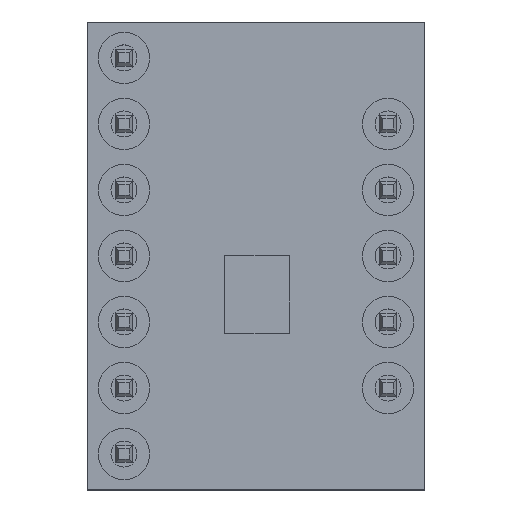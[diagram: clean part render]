
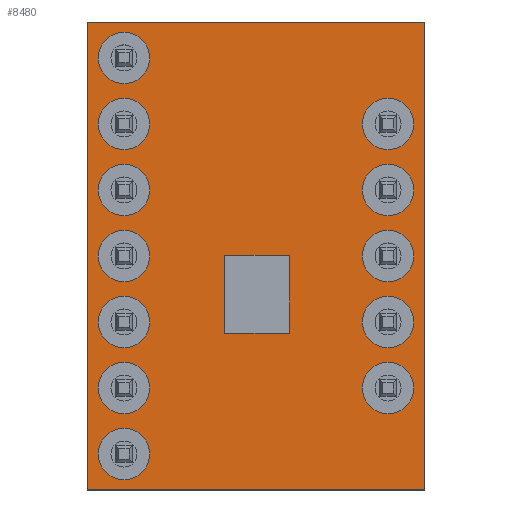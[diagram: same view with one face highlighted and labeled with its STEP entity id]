
A CAD part, top view. The second image highlights one B-rep face of the part: STEP entity #8480.
In plain terms, the highlighted planar face has unit normal (0, 0, 1).
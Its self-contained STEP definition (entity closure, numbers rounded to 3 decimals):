
#56=CIRCLE('',#9000,0.99);
#59=CIRCLE('',#9006,0.99);
#62=CIRCLE('',#9012,0.99);
#65=CIRCLE('',#9018,0.99);
#68=CIRCLE('',#9024,0.99);
#71=CIRCLE('',#9030,0.99);
#74=CIRCLE('',#9036,0.99);
#77=CIRCLE('',#9042,0.99);
#80=CIRCLE('',#9048,0.99);
#83=CIRCLE('',#9054,0.99);
#86=CIRCLE('',#9060,0.99);
#89=CIRCLE('',#9066,0.99);
#278=FACE_BOUND('',#1298,.T.);
#279=FACE_BOUND('',#1299,.T.);
#280=FACE_BOUND('',#1300,.T.);
#281=FACE_BOUND('',#1301,.T.);
#282=FACE_BOUND('',#1302,.T.);
#283=FACE_BOUND('',#1303,.T.);
#284=FACE_BOUND('',#1304,.T.);
#285=FACE_BOUND('',#1305,.T.);
#286=FACE_BOUND('',#1306,.T.);
#287=FACE_BOUND('',#1307,.T.);
#288=FACE_BOUND('',#1308,.T.);
#289=FACE_BOUND('',#1309,.T.);
#290=FACE_BOUND('',#1310,.T.);
#758=FACE_OUTER_BOUND('',#1297,.T.);
#1297=EDGE_LOOP('',(#7064,#7065,#7066,#7067));
#1298=EDGE_LOOP('',(#7068));
#1299=EDGE_LOOP('',(#7069));
#1300=EDGE_LOOP('',(#7070));
#1301=EDGE_LOOP('',(#7071));
#1302=EDGE_LOOP('',(#7072));
#1303=EDGE_LOOP('',(#7073));
#1304=EDGE_LOOP('',(#7074));
#1305=EDGE_LOOP('',(#7075));
#1306=EDGE_LOOP('',(#7076));
#1307=EDGE_LOOP('',(#7077));
#1308=EDGE_LOOP('',(#7078));
#1309=EDGE_LOOP('',(#7079));
#1310=EDGE_LOOP('',(#7080,#7081,#7082,#7083));
#2272=LINE('',#13142,#3232);
#2276=LINE('',#13150,#3236);
#2279=LINE('',#13156,#3239);
#2282=LINE('',#13161,#3242);
#2322=LINE('',#13411,#3282);
#2325=LINE('',#13417,#3285);
#2328=LINE('',#13423,#3288);
#2331=LINE('',#13427,#3291);
#3232=VECTOR('',#10782,10.);
#3236=VECTOR('',#10788,10.);
#3239=VECTOR('',#10793,10.);
#3242=VECTOR('',#10798,10.);
#3282=VECTOR('',#11106,10.);
#3285=VECTOR('',#11111,10.);
#3288=VECTOR('',#11116,10.);
#3291=VECTOR('',#11121,10.);
#3868=VERTEX_POINT('',#13140);
#3869=VERTEX_POINT('',#13141);
#3872=VERTEX_POINT('',#13149);
#3874=VERTEX_POINT('',#13155);
#3913=VERTEX_POINT('',#13275);
#3916=VERTEX_POINT('',#13286);
#3919=VERTEX_POINT('',#13297);
#3922=VERTEX_POINT('',#13308);
#3925=VERTEX_POINT('',#13319);
#3928=VERTEX_POINT('',#13330);
#3931=VERTEX_POINT('',#13341);
#3934=VERTEX_POINT('',#13352);
#3937=VERTEX_POINT('',#13363);
#3940=VERTEX_POINT('',#13374);
#3943=VERTEX_POINT('',#13385);
#3946=VERTEX_POINT('',#13396);
#3950=VERTEX_POINT('',#13408);
#3951=VERTEX_POINT('',#13410);
#3953=VERTEX_POINT('',#13416);
#3955=VERTEX_POINT('',#13422);
#4880=EDGE_CURVE('',#3868,#3869,#2272,.T.);
#4884=EDGE_CURVE('',#3869,#3872,#2276,.T.);
#4887=EDGE_CURVE('',#3872,#3874,#2279,.T.);
#4890=EDGE_CURVE('',#3874,#3868,#2282,.T.);
#4942=EDGE_CURVE('',#3913,#3913,#56,.T.);
#4947=EDGE_CURVE('',#3916,#3916,#59,.T.);
#4952=EDGE_CURVE('',#3919,#3919,#62,.T.);
#4957=EDGE_CURVE('',#3922,#3922,#65,.T.);
#4962=EDGE_CURVE('',#3925,#3925,#68,.T.);
#4967=EDGE_CURVE('',#3928,#3928,#71,.T.);
#4972=EDGE_CURVE('',#3931,#3931,#74,.T.);
#4977=EDGE_CURVE('',#3934,#3934,#77,.T.);
#4982=EDGE_CURVE('',#3937,#3937,#80,.T.);
#4987=EDGE_CURVE('',#3940,#3940,#83,.T.);
#4992=EDGE_CURVE('',#3943,#3943,#86,.T.);
#4997=EDGE_CURVE('',#3946,#3946,#89,.T.);
#5002=EDGE_CURVE('',#3951,#3950,#2322,.T.);
#5005=EDGE_CURVE('',#3953,#3951,#2325,.T.);
#5008=EDGE_CURVE('',#3955,#3953,#2328,.T.);
#5011=EDGE_CURVE('',#3950,#3955,#2331,.T.);
#7064=ORIENTED_EDGE('',*,*,#5011,.T.);
#7065=ORIENTED_EDGE('',*,*,#5008,.T.);
#7066=ORIENTED_EDGE('',*,*,#5005,.T.);
#7067=ORIENTED_EDGE('',*,*,#5002,.T.);
#7068=ORIENTED_EDGE('',*,*,#4982,.T.);
#7069=ORIENTED_EDGE('',*,*,#4997,.T.);
#7070=ORIENTED_EDGE('',*,*,#4972,.T.);
#7071=ORIENTED_EDGE('',*,*,#4992,.T.);
#7072=ORIENTED_EDGE('',*,*,#4942,.T.);
#7073=ORIENTED_EDGE('',*,*,#4957,.T.);
#7074=ORIENTED_EDGE('',*,*,#4952,.T.);
#7075=ORIENTED_EDGE('',*,*,#4977,.T.);
#7076=ORIENTED_EDGE('',*,*,#4962,.T.);
#7077=ORIENTED_EDGE('',*,*,#4947,.T.);
#7078=ORIENTED_EDGE('',*,*,#4987,.T.);
#7079=ORIENTED_EDGE('',*,*,#4967,.T.);
#7080=ORIENTED_EDGE('',*,*,#4880,.T.);
#7081=ORIENTED_EDGE('',*,*,#4884,.T.);
#7082=ORIENTED_EDGE('',*,*,#4887,.T.);
#7083=ORIENTED_EDGE('',*,*,#4890,.T.);
#7639=PLANE('',#9074);
#8480=ADVANCED_FACE('',(#758,#278,#279,#280,#281,#282,#283,#284,#285,#286,
#287,#288,#289,#290),#7639,.T.);
#9000=AXIS2_PLACEMENT_3D('',#13277,#10939,#10940);
#9006=AXIS2_PLACEMENT_3D('',#13288,#10953,#10954);
#9012=AXIS2_PLACEMENT_3D('',#13299,#10967,#10968);
#9018=AXIS2_PLACEMENT_3D('',#13310,#10981,#10982);
#9024=AXIS2_PLACEMENT_3D('',#13321,#10995,#10996);
#9030=AXIS2_PLACEMENT_3D('',#13332,#11009,#11010);
#9036=AXIS2_PLACEMENT_3D('',#13343,#11023,#11024);
#9042=AXIS2_PLACEMENT_3D('',#13354,#11037,#11038);
#9048=AXIS2_PLACEMENT_3D('',#13365,#11051,#11052);
#9054=AXIS2_PLACEMENT_3D('',#13376,#11065,#11066);
#9060=AXIS2_PLACEMENT_3D('',#13387,#11079,#11080);
#9066=AXIS2_PLACEMENT_3D('',#13398,#11093,#11094);
#9074=AXIS2_PLACEMENT_3D('',#13428,#11122,#11123);
#10782=DIRECTION('',(0.,1.,0.));
#10788=DIRECTION('',(1.,0.,0.));
#10793=DIRECTION('',(0.,-1.,0.));
#10798=DIRECTION('',(-1.,0.,0.));
#10939=DIRECTION('center_axis',(0.,0.,-1.));
#10940=DIRECTION('ref_axis',(1.,0.,0.));
#10953=DIRECTION('center_axis',(0.,0.,-1.));
#10954=DIRECTION('ref_axis',(1.,0.,0.));
#10967=DIRECTION('center_axis',(0.,0.,-1.));
#10968=DIRECTION('ref_axis',(1.,0.,0.));
#10981=DIRECTION('center_axis',(0.,0.,-1.));
#10982=DIRECTION('ref_axis',(1.,0.,0.));
#10995=DIRECTION('center_axis',(0.,0.,-1.));
#10996=DIRECTION('ref_axis',(1.,0.,0.));
#11009=DIRECTION('center_axis',(0.,0.,-1.));
#11010=DIRECTION('ref_axis',(1.,0.,0.));
#11023=DIRECTION('center_axis',(0.,0.,-1.));
#11024=DIRECTION('ref_axis',(1.,0.,0.));
#11037=DIRECTION('center_axis',(0.,0.,-1.));
#11038=DIRECTION('ref_axis',(1.,0.,0.));
#11051=DIRECTION('center_axis',(0.,0.,-1.));
#11052=DIRECTION('ref_axis',(1.,0.,0.));
#11065=DIRECTION('center_axis',(0.,0.,-1.));
#11066=DIRECTION('ref_axis',(1.,0.,0.));
#11079=DIRECTION('center_axis',(0.,0.,-1.));
#11080=DIRECTION('ref_axis',(1.,0.,0.));
#11093=DIRECTION('center_axis',(0.,0.,-1.));
#11094=DIRECTION('ref_axis',(1.,0.,0.));
#11106=DIRECTION('',(1.,0.,0.));
#11111=DIRECTION('',(0.,-1.,0.));
#11116=DIRECTION('',(-1.,0.,0.));
#11121=DIRECTION('',(0.,1.,0.));
#11122=DIRECTION('center_axis',(0.,0.,1.));
#11123=DIRECTION('ref_axis',(1.,0.,0.));
#13140=CARTESIAN_POINT('',(5.29,-11.98,1.6));
#13141=CARTESIAN_POINT('',(5.29,-8.98,1.6));
#13142=CARTESIAN_POINT('',(5.29,-8.99,1.6));
#13149=CARTESIAN_POINT('',(7.79,-8.98,1.6));
#13150=CARTESIAN_POINT('',(7.145,-8.98,1.6));
#13155=CARTESIAN_POINT('',(7.79,-11.98,1.6));
#13156=CARTESIAN_POINT('',(7.79,-10.49,1.6));
#13161=CARTESIAN_POINT('',(5.895,-11.98,1.6));
#13275=CARTESIAN_POINT('',(10.59,-9.,1.6));
#13277=CARTESIAN_POINT('Origin',(11.58,-9.,1.6));
#13286=CARTESIAN_POINT('',(10.59,-14.08,1.6));
#13288=CARTESIAN_POINT('Origin',(11.58,-14.08,1.6));
#13297=CARTESIAN_POINT('',(0.43,-9.,1.6));
#13299=CARTESIAN_POINT('Origin',(1.42,-9.,1.6));
#13308=CARTESIAN_POINT('',(0.43,-1.38,1.6));
#13310=CARTESIAN_POINT('Origin',(1.42,-1.38,1.6));
#13319=CARTESIAN_POINT('',(0.43,-11.54,1.6));
#13321=CARTESIAN_POINT('Origin',(1.42,-11.54,1.6));
#13330=CARTESIAN_POINT('',(10.59,-11.54,1.6));
#13332=CARTESIAN_POINT('Origin',(11.58,-11.54,1.6));
#13341=CARTESIAN_POINT('',(10.59,-6.46,1.6));
#13343=CARTESIAN_POINT('Origin',(11.58,-6.46,1.6));
#13352=CARTESIAN_POINT('',(0.43,-16.62,1.6));
#13354=CARTESIAN_POINT('Origin',(1.42,-16.62,1.6));
#13363=CARTESIAN_POINT('',(0.43,-6.46,1.6));
#13365=CARTESIAN_POINT('Origin',(1.42,-6.46,1.6));
#13374=CARTESIAN_POINT('',(0.43,-3.92,1.6));
#13376=CARTESIAN_POINT('Origin',(1.42,-3.92,1.6));
#13385=CARTESIAN_POINT('',(0.43,-14.08,1.6));
#13387=CARTESIAN_POINT('Origin',(1.42,-14.08,1.6));
#13396=CARTESIAN_POINT('',(10.59,-3.92,1.6));
#13398=CARTESIAN_POINT('Origin',(11.58,-3.92,1.6));
#13408=CARTESIAN_POINT('',(13.,-18.,1.6));
#13410=CARTESIAN_POINT('',(0.,-18.,1.6));
#13411=CARTESIAN_POINT('',(13.,-18.,1.6));
#13416=CARTESIAN_POINT('',(0.,0.,1.6));
#13417=CARTESIAN_POINT('',(0.,-18.,1.6));
#13422=CARTESIAN_POINT('',(13.,0.,1.6));
#13423=CARTESIAN_POINT('',(13.,0.,1.6));
#13427=CARTESIAN_POINT('',(13.,0.,1.6));
#13428=CARTESIAN_POINT('Origin',(6.5,-9.,1.6));
